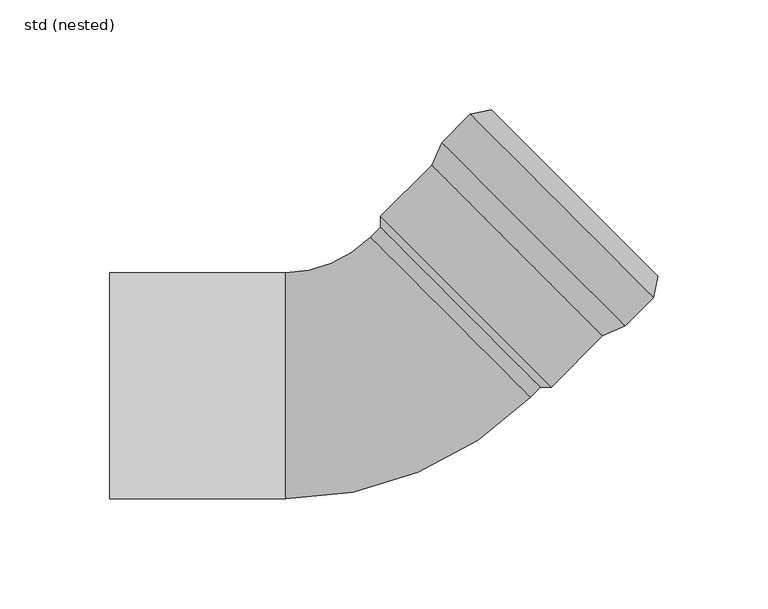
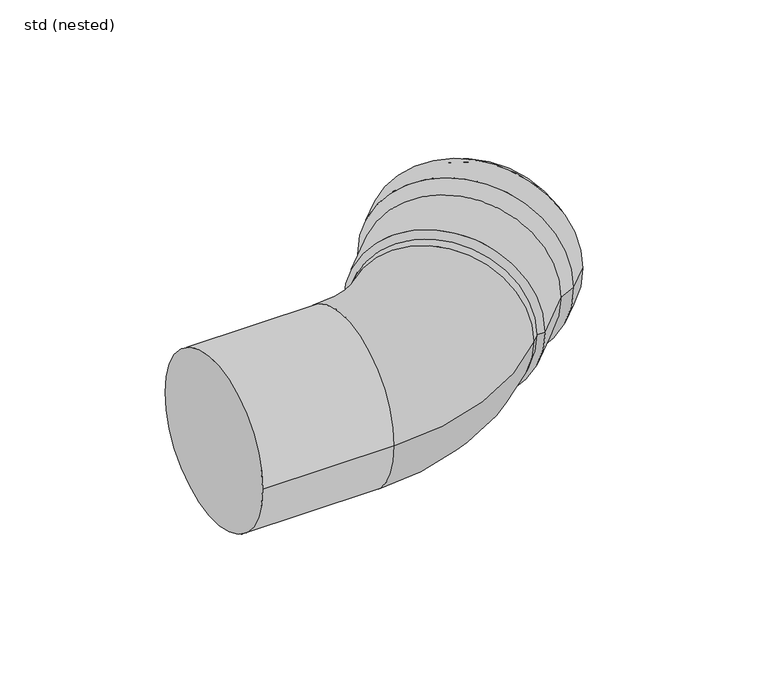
"""IFC4 building model written with IfcOpenShell, lengths in millimetres: pipe fitting geometry, ZZZ_do not use_PIF_ST_UN_GM-X pipe bend_ACO : std (nested)."""

from ifc_helpers import new_model, si_unit, point, frame, origin, place, context, project, spatial, polyline, circle_curve, ellipse_curve, trimmed, source, transform, mapped, element, save
from ifc_brep_helpers import plane_surface, cylinder_surface, revolved_surface, advanced_brep


def std_nested_0d9e00e9(model_context):
    return source(origin(), model_context, "Body", "AdvancedBrep", [
        advanced_brep(
        [(110.6622113, 27.2236111, 0.0), (27.2236111, 110.6622113, 0.0), (40.0929545, 123.5315547, 0.0), (123.5315547, 40.0929545, 0.0), (100.4091629, 22.627417, 0.0), (22.627417, 100.4091629, 0.0), (49.8510281, 125.5114537, 0.0), (125.5114537, 49.8510281, 0.0), (77.0746391, -0.7071068, 0.0), (-0.7071068, 77.0746391, 0.0), (72.1248917, -0.7071068, 0.0), (-0.7071068, 72.1248917, 0.0), (74.5997654, 1.767767, 0.0), (1.767767, 74.5997654, 0.0), (99.2552009, 24.3018821, 0.0), (24.3018821, 99.2552009, 0.0), (0.7071068, 75.6604256, 0.0), (75.6604256, 0.7071068, 0.0), (109.5082492, 28.8980762, 0.0), (28.8980762, 109.5082492, 0.0), (121.691301, 41.081128, 0.0), (41.081128, 121.691301, 0.0), (123.5513925, 50.2487216, 0.0), (50.2487216, 123.5513925, 0.0)],
        [
            (0, 1, circle_curve(frame((68.9429112, 68.9429112, 0.0), z_axis=(0.7071067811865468, 0.7071067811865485, 0.0), x_axis=(-0.7071067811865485, 0.7071067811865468, 0.0)), 59.0)),
            (1, 2),
            (2, 3, circle_curve(frame((81.8122546, 81.8122546, 0.0), z_axis=(-0.7071067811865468, -0.7071067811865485, 0.0), x_axis=(-0.7071067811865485, 0.7071067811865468, 0.0)), 59.0)),
            (3, 0),
            (1, 0, circle_curve(frame((68.9429112, 68.9429112, 0.0), z_axis=(0.7071067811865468, 0.7071067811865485, 0.0), x_axis=(-0.7071067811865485, 0.7071067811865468, 0.0)), 59.0)),
            (3, 2, circle_curve(frame((81.8122546, 81.8122546, 0.0), z_axis=(-0.7071067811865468, -0.7071067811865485, 0.0), x_axis=(-0.7071067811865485, 0.7071067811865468, 0.0)), 59.0)),
            (4, 5, circle_curve(frame((61.51829, 61.51829, 0.0), z_axis=(0.7071067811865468, 0.7071067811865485, 0.0), x_axis=(-0.7071067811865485, 0.7071067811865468, 0.0)), 55.0)),
            (5, 1),
            (0, 4),
            (5, 4, circle_curve(frame((61.51829, 61.51829, 0.0), z_axis=(0.7071067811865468, 0.7071067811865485, 0.0), x_axis=(-0.7071067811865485, 0.7071067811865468, 0.0)), 55.0)),
            (2, 6),
            (6, 7, circle_curve(frame((87.6812409, 87.6812409, 0.0), z_axis=(-0.7071067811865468, -0.7071067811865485, 0.0), x_axis=(-0.7071067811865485, 0.7071067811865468, 0.0)), 53.5)),
            (7, 3),
            (7, 6, circle_curve(frame((87.6812409, 87.6812409, 0.0), z_axis=(-0.7071067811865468, -0.7071067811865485, 0.0), x_axis=(-0.7071067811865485, 0.7071067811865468, 0.0)), 53.5)),
            (8, 9, circle_curve(frame((38.1837662, 38.1837662, 0.0), z_axis=(0.7071067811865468, 0.7071067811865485, 0.0), x_axis=(-0.7071067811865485, 0.7071067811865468, 0.0)), 55.0)),
            (9, 5),
            (4, 8),
            (9, 8, circle_curve(frame((38.1837662, 38.1837662, 0.0), z_axis=(0.7071067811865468, 0.7071067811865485, 0.0), x_axis=(-0.7071067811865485, 0.7071067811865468, 0.0)), 55.0)),
            (10, 11, circle_curve(frame((35.7088924, 35.7088924, 0.0), z_axis=(0.7071067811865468, 0.7071067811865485, 0.0), x_axis=(-0.7071067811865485, 0.7071067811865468, 0.0)), 51.5)),
            (11, 9),
            (8, 10),
            (11, 10, circle_curve(frame((35.7088924, 35.7088924, 0.0), z_axis=(0.7071067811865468, 0.7071067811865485, 0.0), x_axis=(-0.7071067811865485, 0.7071067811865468, 0.0)), 51.5)),
            (12, 13, circle_curve(frame((38.1837662, 38.1837662, 0.0), z_axis=(0.7071067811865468, 0.7071067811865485, 0.0), x_axis=(-0.7071067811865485, 0.7071067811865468, 0.0)), 51.5)),
            (13, 11),
            (10, 12),
            (13, 12, circle_curve(frame((38.1837662, 38.1837662, 0.0), z_axis=(0.7071067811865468, 0.7071067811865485, 0.0), x_axis=(-0.7071067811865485, 0.7071067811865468, 0.0)), 51.5)),
            (14, 15, circle_curve(frame((61.7785415, 61.7785415, 0.0), z_axis=(0.7071067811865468, 0.7071067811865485, 0.0), x_axis=(-0.7071067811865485, 0.7071067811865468, 0.0)), 53.0)),
            (15, 16),
            (16, 17, circle_curve(frame((38.1837662, 38.1837662, 0.0), z_axis=(-0.7071067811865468, -0.7071067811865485, 0.0), x_axis=(-0.7071067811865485, 0.7071067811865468, 0.0)), 53.0)),
            (17, 14),
            (15, 14, circle_curve(frame((61.7785415, 61.7785415, 0.0), z_axis=(0.7071067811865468, 0.7071067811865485, 0.0), x_axis=(-0.7071067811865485, 0.7071067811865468, 0.0)), 53.0)),
            (17, 16, circle_curve(frame((38.1837662, 38.1837662, 0.0), z_axis=(-0.7071067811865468, -0.7071067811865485, 0.0), x_axis=(-0.7071067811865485, 0.7071067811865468, 0.0)), 53.0)),
            (18, 19, circle_curve(frame((69.2031627, 69.2031627, 0.0), z_axis=(0.7071067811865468, 0.7071067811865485, 0.0), x_axis=(-0.7071067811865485, 0.7071067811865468, 0.0)), 57.0)),
            (19, 15),
            (14, 18),
            (19, 18, circle_curve(frame((69.2031627, 69.2031627, 0.0), z_axis=(0.7071067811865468, 0.7071067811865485, 0.0), x_axis=(-0.7071067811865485, 0.7071067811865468, 0.0)), 57.0)),
            (20, 21, circle_curve(frame((81.3862145, 81.3862145, 0.0), z_axis=(0.7071067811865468, 0.7071067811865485, 0.0), x_axis=(-0.7071067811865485, 0.7071067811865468, 0.0)), 57.0)),
            (21, 19),
            (18, 20),
            (21, 20, circle_curve(frame((81.3862145, 81.3862145, 0.0), z_axis=(0.7071067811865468, 0.7071067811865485, 0.0), x_axis=(-0.7071067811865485, 0.7071067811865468, 0.0)), 57.0)),
            (22, 23, circle_curve(frame((86.9000571, 86.9000571, 0.0), z_axis=(0.7071067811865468, 0.7071067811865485, 0.0), x_axis=(-0.7071067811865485, 0.7071067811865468, 0.0)), 51.8328156)),
            (23, 21),
            (20, 22),
            (23, 22, circle_curve(frame((86.9000571, 86.9000571, 0.0), z_axis=(0.7071067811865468, 0.7071067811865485, 0.0), x_axis=(-0.7071067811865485, 0.7071067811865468, 0.0)), 51.8328156)),
            (6, 23),
            (22, 7),
            (16, 13),
            (12, 17),
        ],
        [
            cylinder_surface(frame((85.3084816, 85.3084816, 0.0), z_axis=(-0.7071067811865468, -0.7071067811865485, 0.0), x_axis=(-0.7071067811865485, 0.7071067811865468, 0.0)), 59.0),
            revolved_surface(polyline([(27.2236111, 110.6622113, 0.0), (22.627417, 100.4091629, 0.0)]), (85.3084816, 85.3084816, 0.0), (-0.7071067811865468, -0.7071067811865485, 0.0)),
            revolved_surface(polyline([(49.8510281, 125.5114537, 0.0), (40.0929545, 123.5315547, 0.0)]), (85.3084816, 85.3084816, 0.0), (-0.7071067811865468, -0.7071067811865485, 0.0)),
            cylinder_surface(frame((85.3084816, 85.3084816, 0.0), z_axis=(-0.7071067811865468, -0.7071067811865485, 0.0), x_axis=(-0.7071067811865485, 0.7071067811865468, 0.0)), 55.0),
            revolved_surface(polyline([(-0.7071068, 77.0746391, 0.0), (-0.7071068, 72.1248917, 0.0)]), (85.3084816, 85.3084816, 0.0), (-0.7071067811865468, -0.7071067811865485, 0.0)),
            revolved_surface(polyline([(-0.7071068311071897, 72.12489163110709, 0.0), (1.7677669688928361, 74.59976543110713, 0.0)]), (85.3084816, 85.3084816, 0.0), (-0.7071067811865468, -0.7071067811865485, 0.0)),
            revolved_surface(polyline([(0.7071067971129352, 75.66042560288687, 0.0), (24.301882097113, 99.255200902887, 0.0)]), (85.3084816, 85.3084816, 0.0), (-0.7071067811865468, -0.7071067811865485, 0.0)),
            revolved_surface(polyline([(24.3018821, 99.2552009, 0.0), (28.8980762, 109.5082492, 0.0)]), (85.3084816, 85.3084816, 0.0), (-0.7071067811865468, -0.7071067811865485, 0.0)),
            revolved_surface(polyline([(28.8980761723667, 109.50824922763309, 0.0), (41.08112797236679, 121.6913010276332, 0.0)]), (85.3084816, 85.3084816, 0.0), (-0.7071067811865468, -0.7071067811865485, 0.0)),
            revolved_surface(polyline([(41.081128, 121.691301, 0.0), (50.2487216, 123.5513925, 0.0)]), (85.3084816, 85.3084816, 0.0), (-0.7071067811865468, -0.7071067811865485, 0.0)),
            revolved_surface(polyline([(50.2487216, 123.5513925, 0.0), (49.8510281, 125.5114537, 0.0)]), (85.3084816, 85.3084816, 0.0), (-0.7071067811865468, -0.7071067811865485, 0.0)),
            plane_surface(frame((38.1837662, 38.1837662, 0.0), z_axis=(0.7071067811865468, 0.7071067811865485, 0.0), x_axis=(-0.7071067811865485, 0.7071067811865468, 0.0))),
        ],
        [
            (0, [[1, 2, 3, 4]]),
            (0, [[5, -4, 6, -2]]),
            (1, [[7, 8, -1, 9]]),
            (1, [[10, -9, -5, -8]]),
            (2, [[-3, 11, 12, 13]]),
            (2, [[-6, -13, 14, -11]]),
            (3, [[15, 16, -7, 17]]),
            (3, [[18, -17, -10, -16]]),
            (4, [[19, 20, -15, 21]]),
            (4, [[22, -21, -18, -20]]),
            (5, [[23, 24, -19, 25]]),
            (5, [[26, -25, -22, -24]]),
            (6, [[27, 28, 29, 30]]),
            (6, [[31, -30, 32, -28]]),
            (7, [[33, 34, -27, 35]]),
            (7, [[36, -35, -31, -34]]),
            (8, [[37, 38, -33, 39]]),
            (8, [[40, -39, -36, -38]]),
            (9, [[41, 42, -37, 43]]),
            (9, [[44, -43, -40, -42]]),
            (10, [[-12, 45, -41, 46]]),
            (10, [[-14, -46, -44, -45]]),
            (11, [[-29, 47, -23, 48]]),
            (11, [[-32, -48, -26, -47]]),
        ],
    ),
        advanced_brep(
        [(-5.3033009, 67.5286976, 0.0), (-44.0, 51.5, 0.0), (-44.0, -51.5, 0.0), (67.5286976, -5.3033009, 0.0), (31.1126984, 31.1126984, 51.5), (31.1126984, 31.1126984, -51.5), (-124.0, -51.5, 0.0), (-124.0, 51.5, 0.0), (74.5997654, 1.767767, 0.0), (1.767767, 74.5997654, 0.0)],
        [
            (0, 1, circle_curve(frame((-44.0, 106.2253967, 0.0), z_axis=(0.0, 0.0, -1.0), x_axis=(0.0, -1.0, 0.0)), 54.7253967)),
            (1, 2, circle_curve(frame((-44.0, 0.0, 0.0), z_axis=(1.0, 0.0, 0.0), x_axis=(0.0, 1.0, 0.0)), 51.5)),
            (2, 3, circle_curve(frame((-44.0, 106.2253967, 0.0), z_axis=(0.0, 0.0, 1.0), x_axis=(0.0, -1.0, 0.0)), 157.7253967)),
            (3, 4, circle_curve(frame((31.1126984, 31.1126984, 0.0), z_axis=(-0.7071067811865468, -0.7071067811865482, 0.0), x_axis=(-0.7071067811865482, 0.7071067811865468, 0.0)), 51.5)),
            (4, 0, circle_curve(frame((31.1126984, 31.1126984, 0.0), z_axis=(-0.7071067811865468, -0.7071067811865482, 0.0), x_axis=(-0.7071067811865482, 0.7071067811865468, 0.0)), 51.5)),
            (0, 5, circle_curve(frame((31.1126984, 31.1126984, 0.0), z_axis=(-0.7071067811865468, -0.7071067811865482, 0.0), x_axis=(-0.7071067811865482, 0.7071067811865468, 0.0)), 51.5)),
            (5, 3, circle_curve(frame((31.1126984, 31.1126984, 0.0), z_axis=(-0.7071067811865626, -0.7071067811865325, 0.0), x_axis=(-0.7071067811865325, 0.7071067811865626, 0.0)), 51.5)),
            (2, 1, circle_curve(frame((-44.0, 0.0, 0.0), z_axis=(1.0, 0.0, 0.0), x_axis=(0.0, 1.0, 0.0)), 51.5)),
            (6, 7, circle_curve(frame((-124.0, 0.0, 0.0), z_axis=(-1.0, 0.0, 0.0), x_axis=(0.0, 1.0, 0.0)), 51.5)),
            (7, 6, circle_curve(frame((-124.0, 0.0, 0.0), z_axis=(-1.0, 0.0, 0.0), x_axis=(0.0, 1.0, 0.0)), 51.5)),
            (7, 1),
            (2, 6),
            (8, 9, circle_curve(frame((38.1837662, 38.1837662, 0.0), z_axis=(0.7071067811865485, 0.7071067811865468, 0.0), x_axis=(-0.7071067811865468, 0.7071067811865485, 0.0)), 51.5)),
            (9, 8, circle_curve(frame((38.1837662, 38.1837662, 0.0), z_axis=(0.7071067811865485, 0.7071067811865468, 0.0), x_axis=(-0.7071067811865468, 0.7071067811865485, 0.0)), 51.5)),
            (9, 0),
            (3, 8),
        ],
        [
            revolved_surface(trimmed(ellipse_curve(frame((-44.0, 0.0, 0.0), z_axis=(-1.0, 0.0, 0.0), x_axis=(0.0, 1.0, 0.0)), 51.5, 51.5), [point((-44.0, -51.5, 0.0))], [point((-44.0, 51.5, 0.0))], True, "CARTESIAN"), (-44.0, 106.2253967, 0.0), (0.0, 0.0, 1.0)),
            revolved_surface(trimmed(ellipse_curve(frame((-44.0, 0.0, 0.0), z_axis=(-1.0, 0.0, 0.0), x_axis=(0.0, 1.0, 0.0)), 51.5, 51.5), [point((-44.0, 51.5, 0.0))], [point((-44.0, -51.5, 0.0))], True, "CARTESIAN"), (-44.0, 106.2253967, 0.0), (0.0, 0.0, 1.0)),
            plane_surface(frame((-124.0, 51.5, 0.0), z_axis=(-1.0, 0.0, 0.0), x_axis=(0.0, 0.0, -1.0))),
            cylinder_surface(frame((-124.0, 0.0, 0.0), z_axis=(1.0, 0.0, 0.0), x_axis=(0.0, 1.0, 0.0)), 51.5),
            plane_surface(frame((38.1837662, 38.1837662, 0.0), z_axis=(0.7071067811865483, 0.7071067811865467, 0.0), x_axis=(0.0, 0.0, 1.0))),
            cylinder_surface(frame((31.1126984, 31.1126984, 0.0), z_axis=(-0.7071067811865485, -0.7071067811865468, 0.0), x_axis=(-0.7071067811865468, 0.7071067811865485, 0.0)), 51.5),
        ],
        [
            (0, [[1, 2, 3, 4, 5]]),
            (1, [[-1, 6, 7, -3, 8]]),
            (2, [[9, 10]]),
            (3, [[-10, 11, -8, 12]]),
            (3, [[-9, -12, -2, -11]]),
            (4, [[13, 14]]),
            (5, [[-14, 15, -5, -4, 16]]),
            (5, [[-13, -16, -7, -6, -15]]),
        ],
    ),
    ])


if __name__ == "__main__":
    model = new_model("IFC4")
    model_context = context("Model", 3, world=origin())
    ifc_project = project(units=[si_unit("LENGTHUNIT", "METRE", prefix="MILLI")], contexts=[model_context])
    site = spatial("IfcSite", under=ifc_project)
    building = spatial("IfcBuilding", under=site)
    placement = place(None, origin())
    std_nested_shape = std_nested_0d9e00e9(model_context)
    element("IfcPipeFitting", 1, ObjectType="ZZZ_do not use_PIF_ST_UN_GM-X pipe bend_ACO : std (nested)", at=placement, inside=building, context=model_context, shape_type="MappedRepresentation", body=[
        mapped(std_nested_shape, transform((0.0, 0.0, 0.0), x_axis=(1.0, 0.0, 0.0), y_axis=(0.0, 1.0, 0.0), z_axis=(0.0, 0.0, 1.0))),
    ])
    save(model, "model.ifc")
